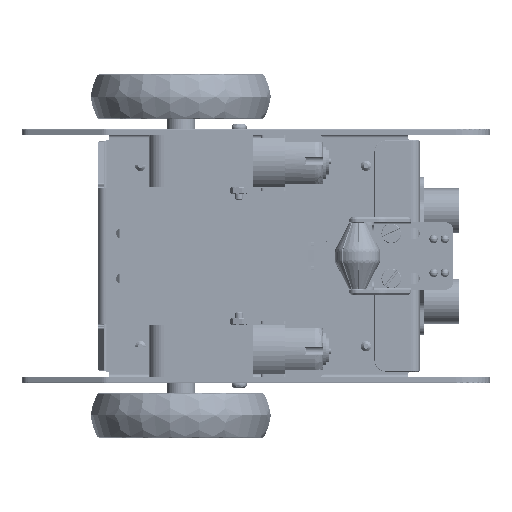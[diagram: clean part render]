
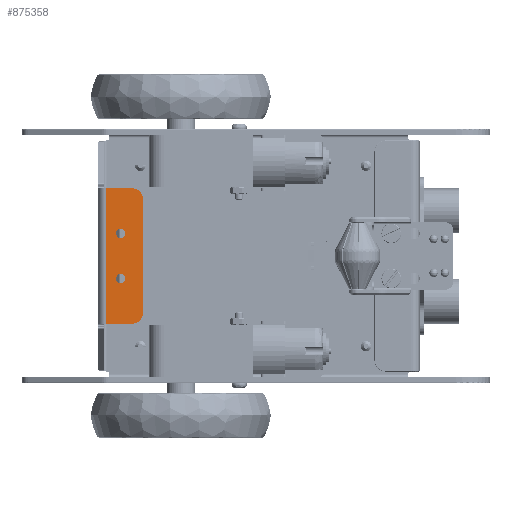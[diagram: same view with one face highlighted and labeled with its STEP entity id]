
A CAD part, front view. The second image highlights one B-rep face of the part: STEP entity #875358.
In plain terms, the highlighted planar face has unit normal (0, -1, 0).
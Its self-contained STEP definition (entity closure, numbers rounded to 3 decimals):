
#9677 = CARTESIAN_POINT ( 'NONE',  ( -45., -30.5, -24. ) ) ;
#10740 = EDGE_CURVE ( 'NONE', #56959, #636237, #411279, .T. ) ;
#14240 = CARTESIAN_POINT ( 'NONE',  ( -54.263, -30.5, -24. ) ) ;
#40405 = FACE_OUTER_BOUND ( 'NONE', #452242, .T. ) ;
#56959 = VERTEX_POINT ( 'NONE', #616594 ) ;
#88643 = CARTESIAN_POINT ( 'NONE',  ( -54.263, -30.5, -24. ) ) ;
#93727 = CARTESIAN_POINT ( 'NONE',  ( 0., -30.5, 0. ) ) ;
#105686 = DIRECTION ( 'NONE',  ( 0., 1., 0. ) ) ;
#111606 = AXIS2_PLACEMENT_3D ( 'NONE', #112519, #105686, #505678 ) ;
#112519 = CARTESIAN_POINT ( 'NONE',  ( -49., -30.5, 8. ) ) ;
#117761 = CIRCLE ( 'NONE', #111606, 1.65 ) ;
#123574 = CARTESIAN_POINT ( 'NONE',  ( -45., -30.5, 20. ) ) ;
#129725 = DIRECTION ( 'NONE',  ( -1., 0., 0. ) ) ;
#137167 = EDGE_CURVE ( 'NONE', #606637, #259271, #601131, .T. ) ;
#152567 = CARTESIAN_POINT ( 'NONE',  ( -50.65, -30.5, 8. ) ) ;
#157691 = VECTOR ( 'NONE', #129725, 1000. ) ;
#160518 = CARTESIAN_POINT ( 'NONE',  ( -45., -30.5, -20. ) ) ;
#169318 = LINE ( 'NONE', #659847, #704643 ) ;
#193587 = AXIS2_PLACEMENT_3D ( 'NONE', #93727, #326869, #894106 ) ;
#211872 = EDGE_CURVE ( 'NONE', #464412, #775221, #780783, .T. ) ;
#220410 = LINE ( 'NONE', #1003779, #967376 ) ;
#227992 = CARTESIAN_POINT ( 'NONE',  ( -45., -30.5, 24. ) ) ;
#228417 = DIRECTION ( 'NONE',  ( 1., 0., 0. ) ) ;
#233792 = DIRECTION ( 'NONE',  ( 0., 1., 0. ) ) ;
#254290 = DIRECTION ( 'NONE',  ( 0., 1., 0. ) ) ;
#259271 = VERTEX_POINT ( 'NONE', #525430 ) ;
#273393 = DIRECTION ( 'NONE',  ( 0., 1., 0. ) ) ;
#274396 = ORIENTED_EDGE ( 'NONE', *, *, #707515, .T. ) ;
#312240 = EDGE_CURVE ( 'NONE', #259271, #743038, #169318, .T. ) ;
#315475 = ORIENTED_EDGE ( 'NONE', *, *, #312240, .F. ) ;
#325931 = DIRECTION ( 'NONE',  ( 1., 0., 0. ) ) ;
#326869 = DIRECTION ( 'NONE',  ( 0., -1., 0. ) ) ;
#328851 = ORIENTED_EDGE ( 'NONE', *, *, #751617, .F. ) ;
#333167 = AXIS2_PLACEMENT_3D ( 'NONE', #123574, #273393, #757036 ) ;
#373726 = AXIS2_PLACEMENT_3D ( 'NONE', #948671, #471694, #228417 ) ;
#374941 = VERTEX_POINT ( 'NONE', #950222 ) ;
#379770 = EDGE_CURVE ( 'NONE', #636237, #56959, #587955, .T. ) ;
#387296 = CARTESIAN_POINT ( 'NONE',  ( -49., -30.5, -8. ) ) ;
#411279 = CIRCLE ( 'NONE', #953862, 1.65 ) ;
#426801 = FACE_BOUND ( 'NONE', #658700, .T. ) ;
#441221 = VERTEX_POINT ( 'NONE', #495204 ) ;
#452242 = EDGE_LOOP ( 'NONE', ( #315475, #731331, #777099, #328851, #772771, #742572 ) ) ;
#452523 = AXIS2_PLACEMENT_3D ( 'NONE', #160518, #233792, #553775 ) ;
#460099 = CARTESIAN_POINT ( 'NONE',  ( -55., -30.5, -24. ) ) ;
#464412 = VERTEX_POINT ( 'NONE', #933060 ) ;
#467301 = DIRECTION ( 'NONE',  ( 0., 1., 0. ) ) ;
#469199 = LINE ( 'NONE', #460099, #157691 ) ;
#469313 = EDGE_CURVE ( 'NONE', #441221, #374941, #220410, .T. ) ;
#471694 = DIRECTION ( 'NONE',  ( 0., 1., 0. ) ) ;
#495204 = CARTESIAN_POINT ( 'NONE',  ( -41., -30.5, 20. ) ) ;
#504487 = DIRECTION ( 'NONE',  ( 1., 0., 0. ) ) ;
#505678 = DIRECTION ( 'NONE',  ( 1., 0., 0. ) ) ;
#506752 = EDGE_CURVE ( 'NONE', #743038, #441221, #978522, .T. ) ;
#525430 = CARTESIAN_POINT ( 'NONE',  ( -54.263, -30.5, 24. ) ) ;
#553775 = DIRECTION ( 'NONE',  ( -1., 0., 0. ) ) ;
#583676 = EDGE_LOOP ( 'NONE', ( #704035, #912454 ) ) ;
#587955 = CIRCLE ( 'NONE', #373726, 1.65 ) ;
#601131 = LINE ( 'NONE', #88643, #936712 ) ;
#606637 = VERTEX_POINT ( 'NONE', #14240 ) ;
#616594 = CARTESIAN_POINT ( 'NONE',  ( -50.65, -30.5, -8. ) ) ;
#628207 = AXIS2_PLACEMENT_3D ( 'NONE', #734388, #254290, #504487 ) ;
#636237 = VERTEX_POINT ( 'NONE', #796801 ) ;
#645356 = DIRECTION ( 'NONE',  ( 0., 0., 1. ) ) ;
#658700 = EDGE_LOOP ( 'NONE', ( #894486, #274396 ) ) ;
#659847 = CARTESIAN_POINT ( 'NONE',  ( -55., -30.5, 24. ) ) ;
#675914 = CIRCLE ( 'NONE', #452523, 4. ) ;
#686922 = DIRECTION ( 'NONE',  ( 0., 0., -1. ) ) ;
#704035 = ORIENTED_EDGE ( 'NONE', *, *, #379770, .T. ) ;
#704643 = VECTOR ( 'NONE', #325931, 1000. ) ;
#707515 = EDGE_CURVE ( 'NONE', #775221, #464412, #117761, .T. ) ;
#723619 = PLANE ( 'NONE',  #193587 ) ;
#731331 = ORIENTED_EDGE ( 'NONE', *, *, #137167, .F. ) ;
#734388 = CARTESIAN_POINT ( 'NONE',  ( -49., -30.5, 8. ) ) ;
#742572 = ORIENTED_EDGE ( 'NONE', *, *, #506752, .F. ) ;
#743038 = VERTEX_POINT ( 'NONE', #227992 ) ;
#751617 = EDGE_CURVE ( 'NONE', #374941, #896213, #675914, .T. ) ;
#757036 = DIRECTION ( 'NONE',  ( -1., 0., 0. ) ) ;
#772771 = ORIENTED_EDGE ( 'NONE', *, *, #469313, .F. ) ;
#775221 = VERTEX_POINT ( 'NONE', #152567 ) ;
#777099 = ORIENTED_EDGE ( 'NONE', *, *, #914545, .F. ) ;
#780783 = CIRCLE ( 'NONE', #628207, 1.65 ) ;
#796801 = CARTESIAN_POINT ( 'NONE',  ( -47.35, -30.5, -8. ) ) ;
#875358 = ADVANCED_FACE ( 'NONE', ( #40405, #426801, #999164 ), #723619, .T. ) ;
#894106 = DIRECTION ( 'NONE',  ( 1., 0., 0. ) ) ;
#894486 = ORIENTED_EDGE ( 'NONE', *, *, #211872, .T. ) ;
#896213 = VERTEX_POINT ( 'NONE', #9677 ) ;
#912454 = ORIENTED_EDGE ( 'NONE', *, *, #10740, .T. ) ;
#914545 = EDGE_CURVE ( 'NONE', #896213, #606637, #469199, .T. ) ;
#933060 = CARTESIAN_POINT ( 'NONE',  ( -47.35, -30.5, 8. ) ) ;
#936712 = VECTOR ( 'NONE', #645356, 1000. ) ;
#948671 = CARTESIAN_POINT ( 'NONE',  ( -49., -30.5, -8. ) ) ;
#950222 = CARTESIAN_POINT ( 'NONE',  ( -41., -30.5, -20. ) ) ;
#953862 = AXIS2_PLACEMENT_3D ( 'NONE', #387296, #467301, #1024275 ) ;
#967376 = VECTOR ( 'NONE', #686922, 1000. ) ;
#978522 = CIRCLE ( 'NONE', #333167, 4. ) ;
#999164 = FACE_BOUND ( 'NONE', #583676, .T. ) ;
#1003779 = CARTESIAN_POINT ( 'NONE',  ( -41., -30.5, -24. ) ) ;
#1024275 = DIRECTION ( 'NONE',  ( 1., 0., 0. ) ) ;
